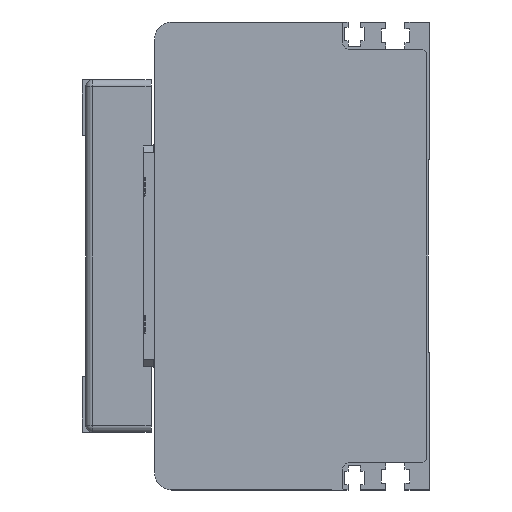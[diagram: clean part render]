
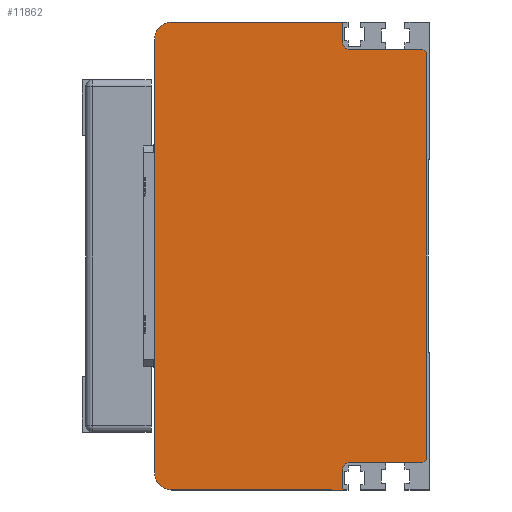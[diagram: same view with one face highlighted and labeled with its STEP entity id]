
A CAD part, left-side view. The second image highlights one B-rep face of the part: STEP entity #11862.
In plain terms, the highlighted planar face has unit normal (-1, 0, 0) as drawn and (0, 0, -1) by its records, which use the part's own axes.
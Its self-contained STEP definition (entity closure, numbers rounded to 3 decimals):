
#945=FACE_OUTER_BOUND('',#1660,.T.);
#1660=EDGE_LOOP('',(#8239,#8240,#8241,#8242,#8243,#8244,#8245,#8246,#8247,
#8248,#8249,#8250,#8251,#8252));
#2432=CIRCLE('',#12714,2.);
#2433=CIRCLE('',#12715,5.);
#2434=CIRCLE('',#12716,5.);
#2435=CIRCLE('',#12717,2.);
#2710=LINE('',#16863,#3853);
#2711=LINE('',#16865,#3854);
#2712=LINE('',#16867,#3855);
#2713=LINE('',#16869,#3856);
#2714=LINE('',#16873,#3857);
#2715=LINE('',#16875,#3858);
#2716=LINE('',#16879,#3859);
#2717=LINE('',#16883,#3860);
#2718=LINE('',#16885,#3861);
#2719=LINE('',#16888,#3862);
#3853=VECTOR('',#13901,1.414);
#3854=VECTOR('',#13902,118.);
#3855=VECTOR('',#13903,1.414);
#3856=VECTOR('',#13904,21.3);
#3857=VECTOR('',#13907,6.);
#3858=VECTOR('',#13908,49.7);
#3859=VECTOR('',#13911,126.);
#3860=VECTOR('',#13914,49.7);
#3861=VECTOR('',#13915,6.);
#3862=VECTOR('',#13918,21.3);
#5062=VERTEX_POINT('',#16861);
#5063=VERTEX_POINT('',#16862);
#5064=VERTEX_POINT('',#16864);
#5065=VERTEX_POINT('',#16866);
#5066=VERTEX_POINT('',#16868);
#5067=VERTEX_POINT('',#16870);
#5068=VERTEX_POINT('',#16872);
#5069=VERTEX_POINT('',#16874);
#5070=VERTEX_POINT('',#16876);
#5071=VERTEX_POINT('',#16878);
#5072=VERTEX_POINT('',#16880);
#5073=VERTEX_POINT('',#16882);
#5074=VERTEX_POINT('',#16884);
#5075=VERTEX_POINT('',#16886);
#6308=EDGE_CURVE('',#5062,#5063,#2710,.T.);
#6309=EDGE_CURVE('',#5062,#5064,#2711,.T.);
#6310=EDGE_CURVE('',#5065,#5064,#2712,.T.);
#6311=EDGE_CURVE('',#5065,#5066,#2713,.T.);
#6312=EDGE_CURVE('',#5067,#5066,#2432,.T.);
#6313=EDGE_CURVE('',#5067,#5068,#2714,.T.);
#6314=EDGE_CURVE('',#5068,#5069,#2715,.T.);
#6315=EDGE_CURVE('',#5069,#5070,#2433,.T.);
#6316=EDGE_CURVE('',#5070,#5071,#2716,.T.);
#6317=EDGE_CURVE('',#5071,#5072,#2434,.T.);
#6318=EDGE_CURVE('',#5072,#5073,#2717,.T.);
#6319=EDGE_CURVE('',#5073,#5074,#2718,.T.);
#6320=EDGE_CURVE('',#5075,#5074,#2435,.T.);
#6321=EDGE_CURVE('',#5075,#5063,#2719,.T.);
#8239=ORIENTED_EDGE('',*,*,#6308,.F.);
#8240=ORIENTED_EDGE('',*,*,#6309,.T.);
#8241=ORIENTED_EDGE('',*,*,#6310,.F.);
#8242=ORIENTED_EDGE('',*,*,#6311,.T.);
#8243=ORIENTED_EDGE('',*,*,#6312,.F.);
#8244=ORIENTED_EDGE('',*,*,#6313,.T.);
#8245=ORIENTED_EDGE('',*,*,#6314,.T.);
#8246=ORIENTED_EDGE('',*,*,#6315,.T.);
#8247=ORIENTED_EDGE('',*,*,#6316,.T.);
#8248=ORIENTED_EDGE('',*,*,#6317,.T.);
#8249=ORIENTED_EDGE('',*,*,#6318,.T.);
#8250=ORIENTED_EDGE('',*,*,#6319,.T.);
#8251=ORIENTED_EDGE('',*,*,#6320,.F.);
#8252=ORIENTED_EDGE('',*,*,#6321,.T.);
#11280=PLANE('',#12713);
#11862=ADVANCED_FACE('',(#945),#11280,.T.);
#12713=AXIS2_PLACEMENT_3D('',#16860,#13899,#13900);
#12714=AXIS2_PLACEMENT_3D('',#16871,#13905,#13906);
#12715=AXIS2_PLACEMENT_3D('',#16877,#13909,#13910);
#12716=AXIS2_PLACEMENT_3D('',#16881,#13912,#13913);
#12717=AXIS2_PLACEMENT_3D('',#16887,#13916,#13917);
#13899=DIRECTION('center_axis',(0.,0.,-1.));
#13900=DIRECTION('ref_axis',(0.,-1.,0.));
#13901=DIRECTION('',(0.707,0.707,0.));
#13902=DIRECTION('',(-1.,0.,0.));
#13903=DIRECTION('',(0.707,-0.707,0.));
#13904=DIRECTION('',(0.,1.,0.));
#13905=DIRECTION('center_axis',(0.,0.,-1.));
#13906=DIRECTION('ref_axis',(0.707,0.707,0.));
#13907=DIRECTION('',(-1.,0.,0.));
#13908=DIRECTION('',(0.,1.,0.));
#13909=DIRECTION('center_axis',(0.,0.,-1.));
#13910=DIRECTION('ref_axis',(-1.,0.,0.));
#13911=DIRECTION('',(1.,0.,0.));
#13912=DIRECTION('center_axis',(0.,0.,-1.));
#13913=DIRECTION('ref_axis',(0.,1.,0.));
#13914=DIRECTION('',(0.,-1.,0.));
#13915=DIRECTION('',(-1.,0.,0.));
#13916=DIRECTION('center_axis',(0.,0.,-1.));
#13917=DIRECTION('ref_axis',(-0.707,0.707,0.));
#13918=DIRECTION('',(0.,-1.,0.));
#16860=CARTESIAN_POINT('Origin',(-29.,-60.,-400.));
#16861=CARTESIAN_POINT('',(66.,-74.,-400.));
#16862=CARTESIAN_POINT('',(67.,-73.,-400.));
#16863=CARTESIAN_POINT('',(46.,-94.,-400.));
#16864=CARTESIAN_POINT('',(-52.,-74.,-400.));
#16865=CARTESIAN_POINT('',(-11.,-74.,-400.));
#16866=CARTESIAN_POINT('',(-53.,-73.,-400.));
#16867=CARTESIAN_POINT('',(-50.,-76.,-400.));
#16868=CARTESIAN_POINT('',(-53.,-51.7,-400.));
#16869=CARTESIAN_POINT('',(-53.,-67.,-400.));
#16870=CARTESIAN_POINT('',(-55.,-49.7,-400.));
#16871=CARTESIAN_POINT('Origin',(-55.,-51.7,-400.));
#16872=CARTESIAN_POINT('',(-61.,-49.7,-400.));
#16873=CARTESIAN_POINT('',(-41.,-49.7,-400.));
#16874=CARTESIAN_POINT('',(-61.,0.,-400.));
#16875=CARTESIAN_POINT('',(-61.,-51.25,-400.));
#16876=CARTESIAN_POINT('',(-56.,5.,-400.));
#16877=CARTESIAN_POINT('Origin',(-56.,0.,
-400.));
#16878=CARTESIAN_POINT('',(70.,5.,-400.));
#16879=CARTESIAN_POINT('',(-56.,5.,-400.));
#16880=CARTESIAN_POINT('',(75.,0.,-400.));
#16881=CARTESIAN_POINT('Origin',(70.,0.,
-400.));
#16882=CARTESIAN_POINT('',(75.,-49.7,-400.));
#16883=CARTESIAN_POINT('',(75.,0.,-400.));
#16884=CARTESIAN_POINT('',(69.,-49.7,-400.));
#16885=CARTESIAN_POINT('',(19.,-49.7,-400.));
#16886=CARTESIAN_POINT('',(67.,-51.7,-400.));
#16887=CARTESIAN_POINT('Origin',(69.,-51.7,-400.));
#16888=CARTESIAN_POINT('',(67.,-67.,-400.));
